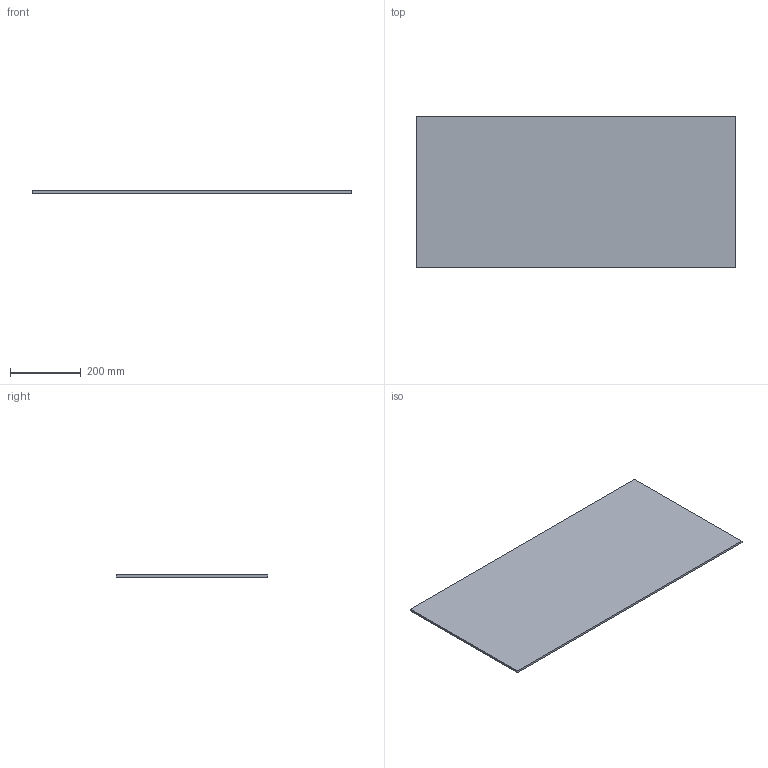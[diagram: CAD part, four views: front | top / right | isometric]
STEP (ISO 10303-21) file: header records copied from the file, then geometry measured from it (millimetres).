
FILE_DESCRIPTION (( 'STEP AP214' ), '1' );
FILE_NAME ('Lochblech_NL450_KAB1000_19.step', '2010-10-11T13:38:32', ( 'grass' ), ( '' ), 'SwSTEP 2.0', 'SolidWorks 2010', '' );
FILE_SCHEMA (( 'AUTOMOTIVE_DESIGN' ));
Length unit declared in the file: millimetre
Products named in the file (1): Lochblech_NL450_KAB1000_19
Bounding box: 902 x 429 x 6 mm (x, y, z)
Volume: 2321748 mm3; surface area: 789888 mm2
Topology: 1 solids, 1 shells, 6 faces, 12 edges, 8 vertices
Faces by surface type: plane 6
Entity records: 190 total; most frequent: CARTESIAN_POINT 27, DIRECTION 26, ORIENTED_EDGE 24, EDGE_CURVE 12, VECTOR 12, LINE 12, VERTEX_POINT 8, AXIS2_PLACEMENT_3D 7
